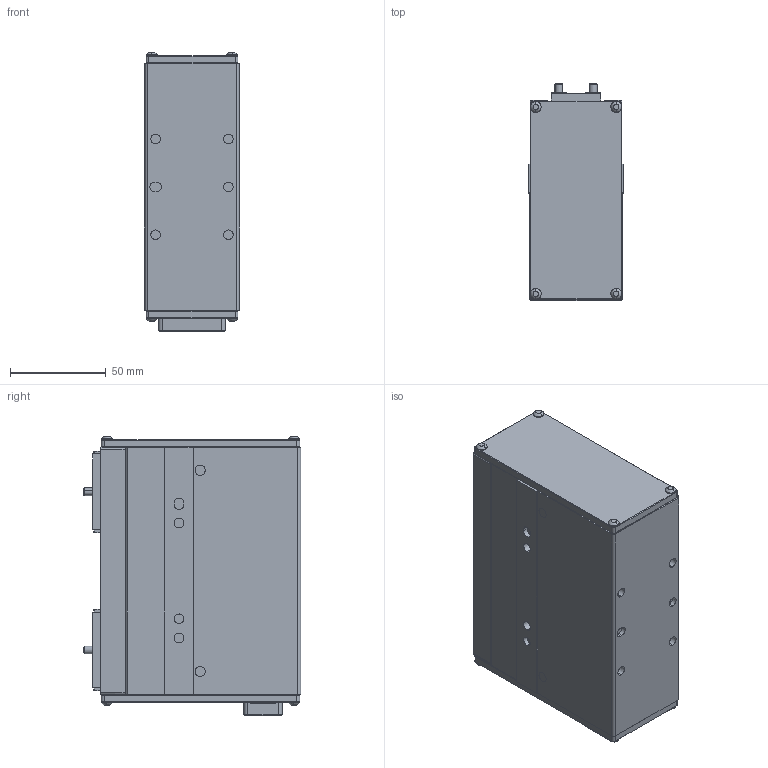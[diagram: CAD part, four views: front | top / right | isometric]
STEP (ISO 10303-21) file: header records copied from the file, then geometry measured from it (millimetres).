
FILE_DESCRIPTION (( 'STEP AP203' ), '1' );
FILE_NAME ('GEL-P2-4240-F (歌德溝)_defeature.STEP', '2023-10-23T05:52:15', ( '' ), ( '' ), 'SwSTEP 2.0', 'SolidWorks 2019', '' );
FILE_SCHEMA (( 'CONFIG_CONTROL_DESIGN' ));
Length unit declared in the file: millimetre
Products named in the file (4): GEL-P2-4240-F (歌德溝)_defeature; Group1^GEL-P2-4240-F (歌德溝)_defeature; Group3^GEL-P2-4240-F (歌德溝)_defeature; Group2^GEL-P2-4240-F (歌德溝)_defeature
Assembly tree (3 placements, depth 2):
  GEL-P2-4240-F (歌德溝)_defeature
    Group1^GEL-P2-4240-F (歌德溝)_defeature
    Group2^GEL-P2-4240-F (歌德溝)_defeature
    Group3^GEL-P2-4240-F (歌德溝)_defeature
Bounding box: 50 x 113.5 x 145.66 mm (x, y, z)
Volume: 330984.4 mm3; surface area: 118880.2 mm2
Topology: 27 solids, 27 shells, 1390 faces, 3658 edges, 2374 vertices
Faces by surface type: plane 746, cylinder 284, cone 150, bspline 146, sphere 64
Entity records: 50037 total; most frequent: CARTESIAN_POINT 16402, ORIENTED_EDGE 7076, DIRECTION 6541, EDGE_CURVE 3538, VECTOR 2311, LINE 2311, VERTEX_POINT 2302, AXIS2_PLACEMENT_3D 2115
